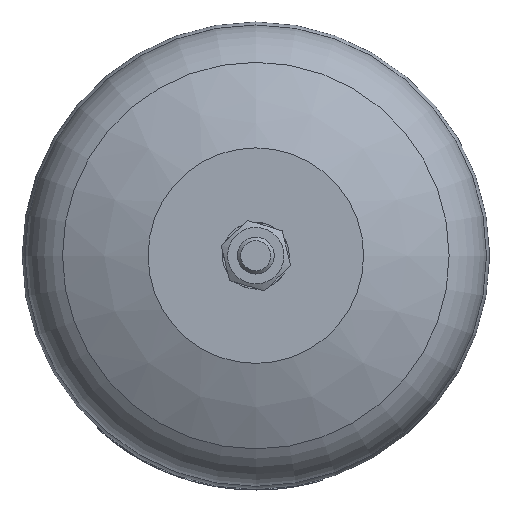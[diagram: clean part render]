
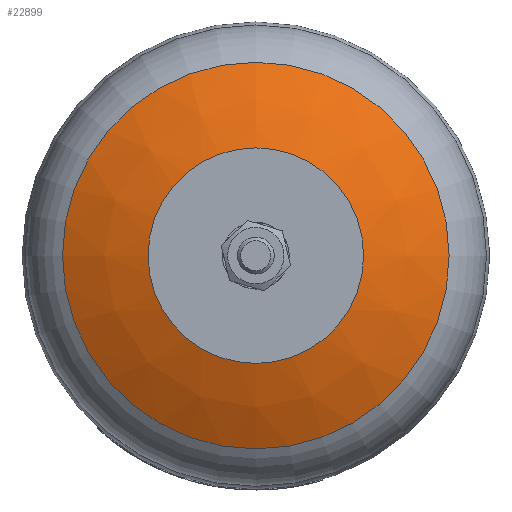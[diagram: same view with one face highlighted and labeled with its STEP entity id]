
A CAD part, front view. The second image highlights one B-rep face of the part: STEP entity #22899.
In plain terms, the highlighted free-form (B-spline) face has degree [2, 2] with [3, 9] control points.
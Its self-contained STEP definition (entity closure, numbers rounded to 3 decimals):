
#31=(
BOUNDED_CURVE()
B_SPLINE_CURVE(2,(#49450,#49451,#49452),.UNSPECIFIED.,.F.,.F.)
B_SPLINE_CURVE_WITH_KNOTS((3,3),(1.054,1.294),
 .UNSPECIFIED.)
CURVE()
GEOMETRIC_REPRESENTATION_ITEM()
RATIONAL_B_SPLINE_CURVE((1.,0.993,1.))
REPRESENTATION_ITEM('')
);
#5312=(
BOUNDED_SURFACE()
B_SPLINE_SURFACE(2,2,((#49419,#49420,#49421,#49422,#49423,#49424,#49425,
#49426,#49427),(#49428,#49429,#49430,#49431,#49432,#49433,#49434,#49435,
#49436),(#49437,#49438,#49439,#49440,#49441,#49442,#49443,#49444,#49445)),
 .UNSPECIFIED.,.F.,.T.,.F.)
B_SPLINE_SURFACE_WITH_KNOTS((3,3),(3,2,2,2,3),(-1.294,-1.054),
(-3.142,-1.571,0.,1.571,3.142),
 .UNSPECIFIED.)
GEOMETRIC_REPRESENTATION_ITEM()
RATIONAL_B_SPLINE_SURFACE(((1.,0.707,1.,0.707,1.,
0.707,1.,0.707,1.),(0.993,0.702,
0.993,0.702,0.993,0.702,
0.993,0.702,0.993),(1.,0.707,
1.,0.707,1.,0.707,1.,0.707,1.)))
REPRESENTATION_ITEM('')
SURFACE()
);
#6571=FACE_OUTER_BOUND('',#7979,.T.);
#7979=EDGE_LOOP('',(#20901,#20902,#20903,#20904,#20905,#20906));
#8435=CIRCLE('',#24581,29.205);
#8436=CIRCLE('',#24582,29.205);
#8437=CIRCLE('',#24583,52.382);
#8438=CIRCLE('',#24584,52.382);
#10721=VERTEX_POINT('',#49415);
#10722=VERTEX_POINT('',#49416);
#10723=VERTEX_POINT('',#49446);
#10724=VERTEX_POINT('',#49447);
#14124=EDGE_CURVE('',#10721,#10722,#8435,.T.);
#14125=EDGE_CURVE('',#10722,#10721,#8436,.T.);
#14126=EDGE_CURVE('',#10723,#10724,#8437,.T.);
#14127=EDGE_CURVE('',#10724,#10723,#8438,.T.);
#14128=EDGE_CURVE('',#10724,#10722,#31,.T.);
#20901=ORIENTED_EDGE('',*,*,#14126,.F.);
#20902=ORIENTED_EDGE('',*,*,#14127,.F.);
#20903=ORIENTED_EDGE('',*,*,#14128,.T.);
#20904=ORIENTED_EDGE('',*,*,#14125,.T.);
#20905=ORIENTED_EDGE('',*,*,#14124,.T.);
#20906=ORIENTED_EDGE('',*,*,#14128,.F.);
#22899=ADVANCED_FACE('',(#6571),#5312,.F.);
#24581=AXIS2_PLACEMENT_3D('',#49417,#29537,#29538);
#24582=AXIS2_PLACEMENT_3D('',#49418,#29539,#29540);
#24583=AXIS2_PLACEMENT_3D('',#49448,#29541,#29542);
#24584=AXIS2_PLACEMENT_3D('',#49449,#29543,#29544);
#29537=DIRECTION('center_axis',(0.,1.,0.));
#29538=DIRECTION('ref_axis',(1.,0.,0.));
#29539=DIRECTION('center_axis',(0.,1.,0.));
#29540=DIRECTION('ref_axis',(1.,0.,0.));
#29541=DIRECTION('center_axis',(0.,1.,0.));
#29542=DIRECTION('ref_axis',(1.,0.,0.));
#29543=DIRECTION('center_axis',(0.,1.,0.));
#29544=DIRECTION('ref_axis',(1.,0.,0.));
#49415=CARTESIAN_POINT('',(29.205,-171.,0.));
#49416=CARTESIAN_POINT('',(0.,-171.,29.205));
#49417=CARTESIAN_POINT('Origin',(0.,-171.,0.));
#49418=CARTESIAN_POINT('Origin',(0.,-171.,0.));
#49419=CARTESIAN_POINT('Ctrl Pts',(0.,-171.,
29.205));
#49420=CARTESIAN_POINT('Ctrl Pts',(29.205,-171.,29.205));
#49421=CARTESIAN_POINT('Ctrl Pts',(29.205,-171.,0.));
#49422=CARTESIAN_POINT('Ctrl Pts',(29.205,-171.,-29.205));
#49423=CARTESIAN_POINT('Ctrl Pts',(0.,-171.,
-29.205));
#49424=CARTESIAN_POINT('Ctrl Pts',(-29.205,-171.,
-29.205));
#49425=CARTESIAN_POINT('Ctrl Pts',(-29.205,-171.,
0.));
#49426=CARTESIAN_POINT('Ctrl Pts',(-29.205,-171.,
29.205));
#49427=CARTESIAN_POINT('Ctrl Pts',(0.,-171.,
29.205));
#49428=CARTESIAN_POINT('Ctrl Pts',(0.,-167.54,
41.379));
#49429=CARTESIAN_POINT('Ctrl Pts',(41.379,-167.54,41.379));
#49430=CARTESIAN_POINT('Ctrl Pts',(41.379,-167.54,0.));
#49431=CARTESIAN_POINT('Ctrl Pts',(41.379,-167.54,-41.379));
#49432=CARTESIAN_POINT('Ctrl Pts',(0.,-167.54,
-41.379));
#49433=CARTESIAN_POINT('Ctrl Pts',(-41.379,-167.54,
-41.379));
#49434=CARTESIAN_POINT('Ctrl Pts',(-41.379,-167.54,
0.));
#49435=CARTESIAN_POINT('Ctrl Pts',(-41.379,-167.54,
41.379));
#49436=CARTESIAN_POINT('Ctrl Pts',(0.,-167.54,
41.379));
#49437=CARTESIAN_POINT('Ctrl Pts',(0.,-161.286,
52.382));
#49438=CARTESIAN_POINT('Ctrl Pts',(52.382,-161.286,52.382));
#49439=CARTESIAN_POINT('Ctrl Pts',(52.382,-161.286,0.));
#49440=CARTESIAN_POINT('Ctrl Pts',(52.382,-161.286,-52.382));
#49441=CARTESIAN_POINT('Ctrl Pts',(0.,-161.286,
-52.382));
#49442=CARTESIAN_POINT('Ctrl Pts',(-52.382,-161.286,
-52.382));
#49443=CARTESIAN_POINT('Ctrl Pts',(-52.382,-161.286,
0.));
#49444=CARTESIAN_POINT('Ctrl Pts',(-52.382,-161.286,
52.382));
#49445=CARTESIAN_POINT('Ctrl Pts',(0.,-161.286,
52.382));
#49446=CARTESIAN_POINT('',(52.382,-161.286,0.));
#49447=CARTESIAN_POINT('',(0.,-161.286,52.382));
#49448=CARTESIAN_POINT('Origin',(0.,-161.286,
0.));
#49449=CARTESIAN_POINT('Origin',(0.,-161.286,
0.));
#49450=CARTESIAN_POINT('Ctrl Pts',(0.,-161.286,
52.382));
#49451=CARTESIAN_POINT('Ctrl Pts',(0.,-167.54,
41.379));
#49452=CARTESIAN_POINT('Ctrl Pts',(0.,-171.,
29.205));
